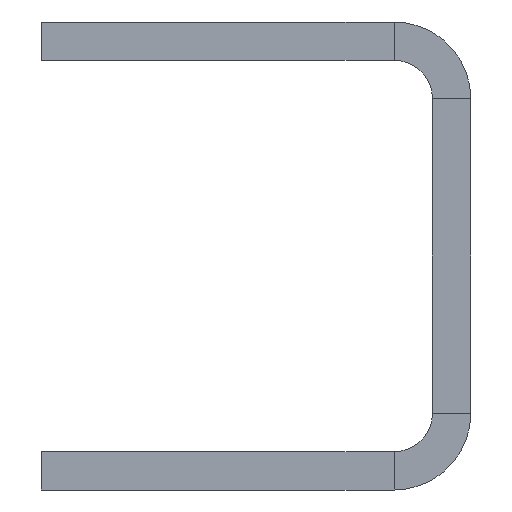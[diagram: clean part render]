
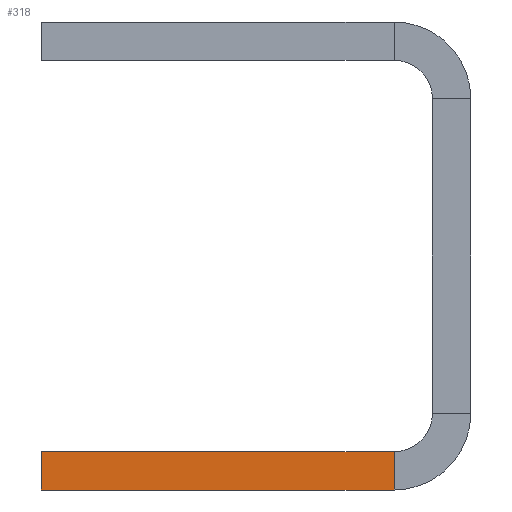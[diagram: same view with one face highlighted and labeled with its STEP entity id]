
A CAD part, front view. The second image highlights one B-rep face of the part: STEP entity #318.
In plain terms, the highlighted planar face has unit normal (0, -1, 0).
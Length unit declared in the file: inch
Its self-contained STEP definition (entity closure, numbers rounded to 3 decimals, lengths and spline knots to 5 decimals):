
#15=PLANE('',#356);
#34=FACE_OUTER_BOUND('',#56,.T.);
#56=EDGE_LOOP('',(#229,#230,#231,#232));
#87=LINE('',#493,#123);
#88=LINE('',#495,#124);
#89=LINE('',#497,#125);
#90=LINE('',#498,#126);
#123=VECTOR('',#395,0.3937);
#124=VECTOR('',#396,0.06566);
#125=VECTOR('',#397,0.3937);
#126=VECTOR('',#398,0.06566);
#158=VERTEX_POINT('',#484);
#161=VERTEX_POINT('',#492);
#162=VERTEX_POINT('',#494);
#163=VERTEX_POINT('',#496);
#185=EDGE_CURVE('',#158,#161,#87,.T.);
#186=EDGE_CURVE('',#162,#161,#88,.T.);
#187=EDGE_CURVE('',#162,#163,#89,.T.);
#188=EDGE_CURVE('',#158,#163,#90,.T.);
#229=ORIENTED_EDGE('',*,*,#185,.T.);
#230=ORIENTED_EDGE('',*,*,#186,.F.);
#231=ORIENTED_EDGE('',*,*,#187,.T.);
#232=ORIENTED_EDGE('',*,*,#188,.F.);
#318=ADVANCED_FACE('',(#34),#15,.T.);
#356=AXIS2_PLACEMENT_3D('',#491,#393,#394);
#393=DIRECTION('center_axis',(0.,-1.,0.));
#394=DIRECTION('ref_axis',(-1.,0.,0.));
#395=DIRECTION('',(0.,0.,1.));
#396=DIRECTION('',(1.,0.,0.));
#397=DIRECTION('',(0.,0.,-1.));
#398=DIRECTION('',(-1.,0.,0.));
#484=CARTESIAN_POINT('',(-0.049,-6.,-0.299));
#491=CARTESIAN_POINT('Origin',(0.05414,-6.,-0.25));
#492=CARTESIAN_POINT('',(-0.049,-6.,-0.25));
#493=CARTESIAN_POINT('',(-0.049,-6.,-0.25833));
#494=CARTESIAN_POINT('',(-0.5,-6.,-0.25));
#495=CARTESIAN_POINT('',(0.15728,-6.,-0.25));
#496=CARTESIAN_POINT('',(-0.5,-6.,-0.299));
#497=CARTESIAN_POINT('',(-0.5,-6.,-0.25));
#498=CARTESIAN_POINT('',(0.15728,-6.,-0.299));
